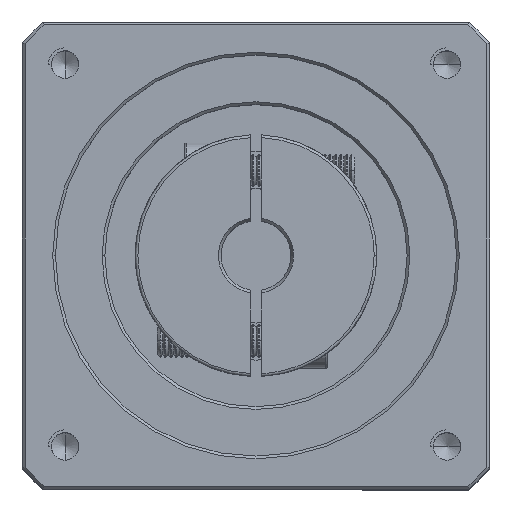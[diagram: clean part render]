
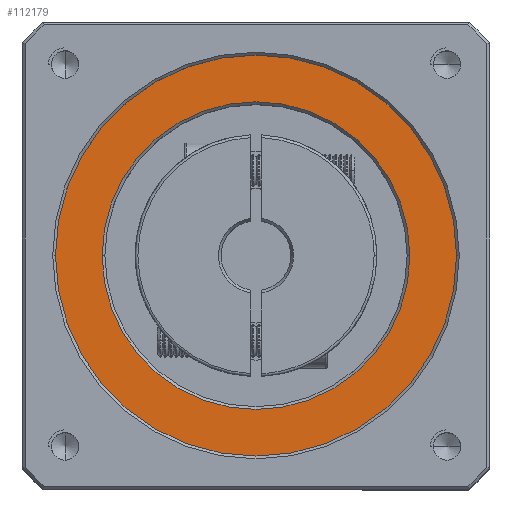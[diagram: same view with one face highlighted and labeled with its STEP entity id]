
A CAD part, top view. The second image highlights one B-rep face of the part: STEP entity #112179.
In plain terms, the highlighted planar face has unit normal (0, 0, 1).
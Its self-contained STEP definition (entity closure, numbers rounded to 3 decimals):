
#3674 = EDGE_CURVE ( 'NONE', #99947, #13233, #33057, .T. ) ;
#10388 = EDGE_CURVE ( 'NONE', #13233, #99947, #98170, .T. ) ;
#11924 = FACE_BOUND ( 'NONE', #65579, .T. ) ;
#13233 = VERTEX_POINT ( 'NONE', #66070 ) ;
#16971 = DIRECTION ( 'NONE',  ( 0., 0., 1. ) ) ;
#17140 = VERTEX_POINT ( 'NONE', #51827 ) ;
#19248 = DIRECTION ( 'NONE',  ( 0., 0., 1. ) ) ;
#25098 = CARTESIAN_POINT ( 'NONE',  ( -10.304, 7.876, 176.5 ) ) ;
#33057 = CIRCLE ( 'NONE', #80268, 28. ) ;
#33863 = DIRECTION ( 'NONE',  ( 1., 0., 0. ) ) ;
#37125 = CIRCLE ( 'NONE', #53462, 36.5 ) ;
#43575 = DIRECTION ( 'NONE',  ( 1., 0., 0. ) ) ;
#43939 = DIRECTION ( 'NONE',  ( 0., 0., -1. ) ) ;
#44321 = CARTESIAN_POINT ( 'NONE',  ( -10.304, 7.876, 176.5 ) ) ;
#45230 = ORIENTED_EDGE ( 'NONE', *, *, #3674, .T. ) ;
#47671 = DIRECTION ( 'NONE',  ( 0., 0., -1. ) ) ;
#51827 = CARTESIAN_POINT ( 'NONE',  ( 26.196, 7.876, 176.5 ) ) ;
#53462 = AXIS2_PLACEMENT_3D ( 'NONE', #69125, #16971, #77866 ) ;
#54442 = EDGE_LOOP ( 'NONE', ( #58378, #65613 ) ) ;
#56373 = AXIS2_PLACEMENT_3D ( 'NONE', #99442, #47671, #108123 ) ;
#58378 = ORIENTED_EDGE ( 'NONE', *, *, #110793, .T. ) ;
#60827 = CARTESIAN_POINT ( 'NONE',  ( 17.696, 7.876, 176.5 ) ) ;
#64347 = CARTESIAN_POINT ( 'NONE',  ( -46.804, 7.876, 176.5 ) ) ;
#65579 = EDGE_LOOP ( 'NONE', ( #45230, #70855 ) ) ;
#65613 = ORIENTED_EDGE ( 'NONE', *, *, #91713, .T. ) ;
#66070 = CARTESIAN_POINT ( 'NONE',  ( -38.304, 7.876, 176.5 ) ) ;
#69125 = CARTESIAN_POINT ( 'NONE',  ( -10.304, 7.876, 176.5 ) ) ;
#70855 = ORIENTED_EDGE ( 'NONE', *, *, #10388, .T. ) ;
#71366 = CARTESIAN_POINT ( 'NONE',  ( -10.304, 7.876, 176.5 ) ) ;
#77866 = DIRECTION ( 'NONE',  ( 1., 0., 0. ) ) ;
#80148 = DIRECTION ( 'NONE',  ( 1., 0., 0. ) ) ;
#80268 = AXIS2_PLACEMENT_3D ( 'NONE', #44321, #43939, #43575 ) ;
#84453 = CIRCLE ( 'NONE', #101844, 36.5 ) ;
#85841 = DIRECTION ( 'NONE',  ( 0., 0., 1. ) ) ;
#90383 = VERTEX_POINT ( 'NONE', #64347 ) ;
#91713 = EDGE_CURVE ( 'NONE', #90383, #17140, #37125, .T. ) ;
#98170 = CIRCLE ( 'NONE', #56373, 28. ) ;
#99442 = CARTESIAN_POINT ( 'NONE',  ( -10.304, 7.876, 176.5 ) ) ;
#99837 = AXIS2_PLACEMENT_3D ( 'NONE', #25098, #85841, #33863 ) ;
#99947 = VERTEX_POINT ( 'NONE', #60827 ) ;
#101844 = AXIS2_PLACEMENT_3D ( 'NONE', #71366, #19248, #80148 ) ;
#102841 = PLANE ( 'NONE',  #99837 ) ;
#104293 = FACE_OUTER_BOUND ( 'NONE', #54442, .T. ) ;
#108123 = DIRECTION ( 'NONE',  ( 1., 0., 0. ) ) ;
#110793 = EDGE_CURVE ( 'NONE', #17140, #90383, #84453, .T. ) ;
#112179 = ADVANCED_FACE ( 'NONE', ( #104293, #11924 ), #102841, .T. ) ;
